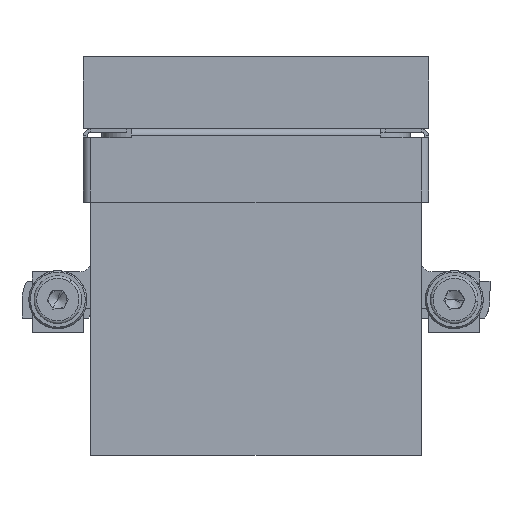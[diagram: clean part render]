
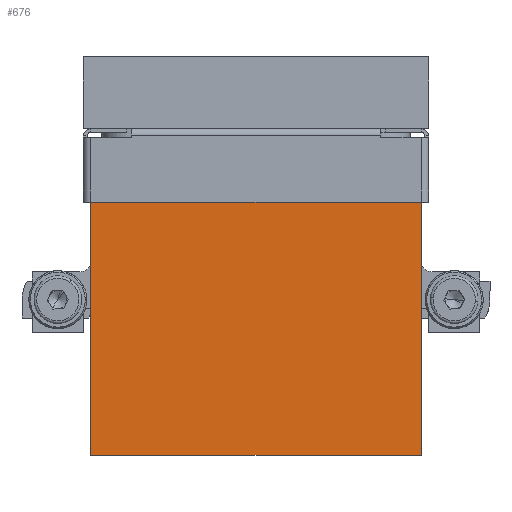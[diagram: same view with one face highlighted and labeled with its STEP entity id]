
A CAD part, front view. The second image highlights one B-rep face of the part: STEP entity #676.
In plain terms, the highlighted planar face has unit normal (0, -1, 0).
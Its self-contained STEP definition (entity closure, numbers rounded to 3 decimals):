
#562 = CARTESIAN_POINT ( 'NONE',  ( 0., 0., 0. ) ) ;
#624 = DIRECTION ( 'NONE',  ( 1., 0., 0. ) ) ;
#676 = ADVANCED_FACE ( 'NONE', ( #6796 ), #6108, .F. ) ;
#887 = CARTESIAN_POINT ( 'NONE',  ( 0., 0., 70. ) ) ;
#921 = ORIENTED_EDGE ( 'NONE', *, *, #10362, .T. ) ;
#1221 = ORIENTED_EDGE ( 'NONE', *, *, #8208, .F. ) ;
#1527 = CARTESIAN_POINT ( 'NONE',  ( 0., 0., 0. ) ) ;
#2566 = DIRECTION ( 'NONE',  ( 0., 0., -1. ) ) ;
#2656 = DIRECTION ( 'NONE',  ( 1., 0., 0. ) ) ;
#2792 = DIRECTION ( 'NONE',  ( 0., 0., 1. ) ) ;
#3744 = CARTESIAN_POINT ( 'NONE',  ( 90., 0., 70. ) ) ;
#3804 = LINE ( 'NONE', #9673, #7561 ) ;
#4080 = EDGE_CURVE ( 'NONE', #8783, #5772, #8278, .T. ) ;
#4259 = VERTEX_POINT ( 'NONE', #3744 ) ;
#4270 = LINE ( 'NONE', #9970, #6855 ) ;
#4578 = ORIENTED_EDGE ( 'NONE', *, *, #4080, .T. ) ;
#5772 = VERTEX_POINT ( 'NONE', #562 ) ;
#5882 = ORIENTED_EDGE ( 'NONE', *, *, #6487, .F. ) ;
#6001 = CARTESIAN_POINT ( 'NONE',  ( 0., 0., 70. ) ) ;
#6108 = PLANE ( 'NONE',  #8663 ) ;
#6487 = EDGE_CURVE ( 'NONE', #8783, #4259, #4270, .T. ) ;
#6796 = FACE_OUTER_BOUND ( 'NONE', #7689, .T. ) ;
#6855 = VECTOR ( 'NONE', #2656, 1000. ) ;
#7053 = DIRECTION ( 'NONE',  ( 0., 0., -1. ) ) ;
#7082 = LINE ( 'NONE', #1527, #7176 ) ;
#7176 = VECTOR ( 'NONE', #624, 1000. ) ;
#7561 = VECTOR ( 'NONE', #7053, 1000. ) ;
#7689 = EDGE_LOOP ( 'NONE', ( #921, #1221, #5882, #4578 ) ) ;
#8208 = EDGE_CURVE ( 'NONE', #4259, #9405, #3804, .T. ) ;
#8278 = LINE ( 'NONE', #9875, #9092 ) ;
#8611 = CARTESIAN_POINT ( 'NONE',  ( 90., 0., 0. ) ) ;
#8663 = AXIS2_PLACEMENT_3D ( 'NONE', #6001, #10104, #2792 ) ;
#8783 = VERTEX_POINT ( 'NONE', #887 ) ;
#9092 = VECTOR ( 'NONE', #2566, 1000. ) ;
#9405 = VERTEX_POINT ( 'NONE', #8611 ) ;
#9673 = CARTESIAN_POINT ( 'NONE',  ( 90., 0., 70. ) ) ;
#9875 = CARTESIAN_POINT ( 'NONE',  ( 0., 0., 70. ) ) ;
#9970 = CARTESIAN_POINT ( 'NONE',  ( 0., 0., 70. ) ) ;
#10104 = DIRECTION ( 'NONE',  ( 0., 1., 0. ) ) ;
#10362 = EDGE_CURVE ( 'NONE', #5772, #9405, #7082, .T. ) ;
